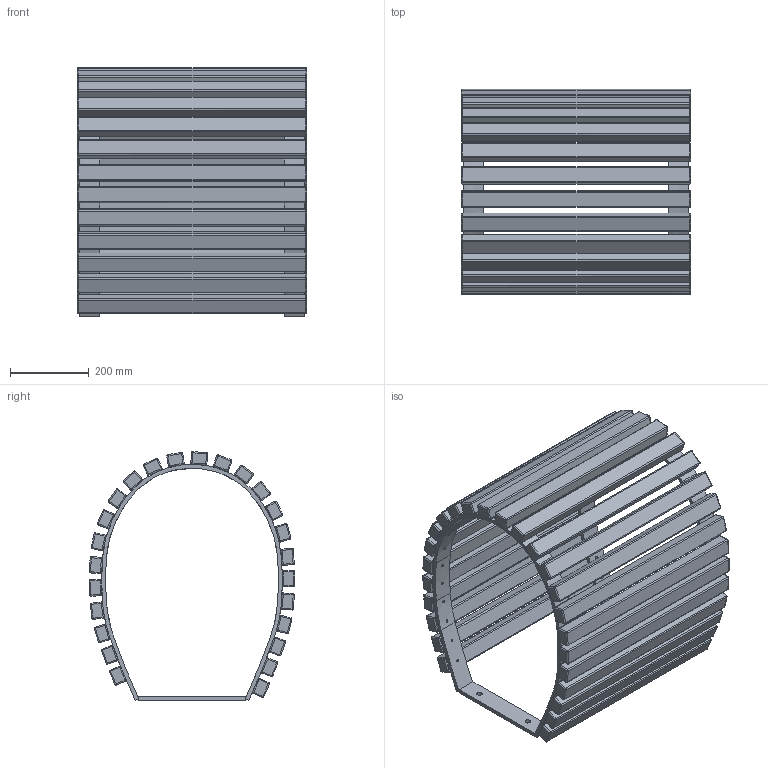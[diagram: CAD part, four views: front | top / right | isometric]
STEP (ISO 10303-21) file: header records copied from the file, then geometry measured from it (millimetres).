
FILE_DESCRIPTION(/* description */ (''),/* implementation_level */ '2;1');
FILE_NAME(/* name */ 'ENV02-C1_UAP_ENVIRON_Bench_3D',/* time_stamp */ '2018-01-23T20:51:28-05:00',/* author */ (''),/* organization */ (''),/* preprocessor_version */ 'ST-DEVELOPER v15',/* originating_system */ '',/* authorisation */ '');
FILE_SCHEMA (('AUTOMOTIVE_DESIGN'));
Length unit declared in the file: millimetre
Products named in the file (1): Document
Bounding box: 580 x 520 x 629.99 mm (x, y, z)
Volume: 20147990 mm3; surface area: 2502324.5 mm2
Topology: 29 solids, 29 shells, 826 faces, 1908 edges, 936 vertices
Faces by surface type: bspline 706, plane 120
Entity records: 27398 total; most frequent: CARTESIAN_POINT 17382, ORIENTED_EDGE 3416, EDGE_CURVE 1708, VERTEX_POINT 936, EDGE_LOOP 930, ADVANCED_FACE 826, FACE_OUTER_BOUND 826, B_SPLINE_CURVE_WITH_KNOTS 414
